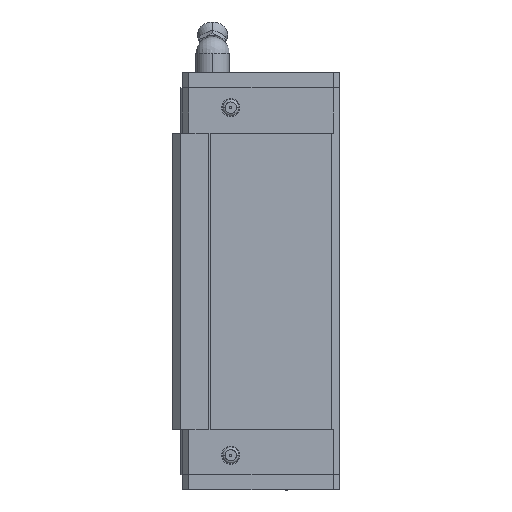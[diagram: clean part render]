
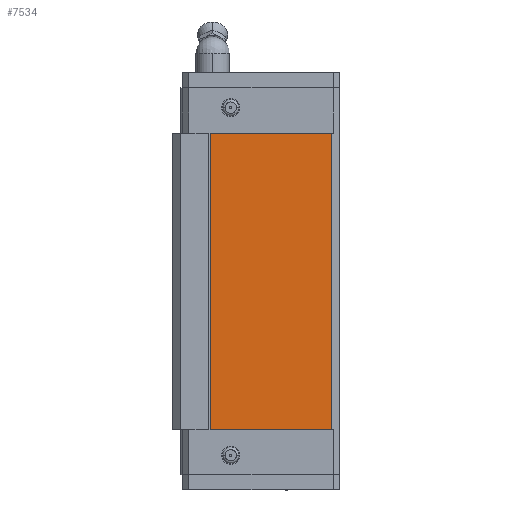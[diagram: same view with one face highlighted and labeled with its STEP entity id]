
A CAD part, left-side view. The second image highlights one B-rep face of the part: STEP entity #7534.
In plain terms, the highlighted planar face has unit normal (-1, 0, 0).
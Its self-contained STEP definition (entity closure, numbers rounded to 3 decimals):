
#111 = CARTESIAN_POINT ( 'NONE',  ( -29.537, 30.537, -35. ) ) ;
#172 = CARTESIAN_POINT ( 'NONE',  ( -29.537, 1.975, 35. ) ) ;
#236 = CARTESIAN_POINT ( 'NONE',  ( -29.537, 1.975, -35. ) ) ;
#3300 = AXIS2_PLACEMENT_3D ( 'NONE', #6674, #6683, #6684 ) ;
#3752 = VERTEX_POINT ( 'NONE', #5782 ) ;
#4095 = VERTEX_POINT ( 'NONE', #111 ) ;
#4156 = VERTEX_POINT ( 'NONE', #172 ) ;
#4220 = VERTEX_POINT ( 'NONE', #236 ) ;
#5097 = EDGE_LOOP ( 'NONE', ( #9894, #9893, #9892, #9891 ) ) ;
#5782 = CARTESIAN_POINT ( 'NONE',  ( -29.537, 30.537, 35. ) ) ;
#6674 = CARTESIAN_POINT ( 'NONE',  ( -29.537, 30.537, 35. ) ) ;
#6681 = PLANE ( 'NONE',  #3300 ) ;
#6683 = DIRECTION ( 'NONE',  ( 1., 0., 0. ) ) ;
#6684 = DIRECTION ( 'NONE',  ( 0., 1., 0. ) ) ;
#6970 = FACE_OUTER_BOUND ( 'NONE', #5097, .T. ) ;
#7534 = ADVANCED_FACE ( 'NONE', ( #6970 ), #6681, .F. ) ;
#8004 = CARTESIAN_POINT ( 'NONE',  ( -29.537, 1.975, 35. ) ) ;
#8016 = DIRECTION ( 'NONE',  ( 0., 0., -1. ) ) ;
#8020 = CARTESIAN_POINT ( 'NONE',  ( -29.537, 30.537, 35. ) ) ;
#8021 = DIRECTION ( 'NONE',  ( 0., 0., 1. ) ) ;
#8149 = CARTESIAN_POINT ( 'NONE',  ( -29.536, -13.281, 35. ) ) ;
#8153 = CARTESIAN_POINT ( 'NONE',  ( -29.536, -13.281, -35. ) ) ;
#8159 = DIRECTION ( 'NONE',  ( 0., 1., 0. ) ) ;
#8161 = DIRECTION ( 'NONE',  ( 0., 1., 0. ) ) ;
#9204 = EDGE_CURVE ( 'NONE', #4156, #4220, #11640, .T. ) ;
#9207 = EDGE_CURVE ( 'NONE', #4095, #3752, #11595, .T. ) ;
#9273 = EDGE_CURVE ( 'NONE', #4156, #3752, #10765, .T. ) ;
#9274 = EDGE_CURVE ( 'NONE', #4220, #4095, #10779, .T. ) ;
#9891 = ORIENTED_EDGE ( 'NONE', *, *, #9274, .F. ) ;
#9892 = ORIENTED_EDGE ( 'NONE', *, *, #9207, .F. ) ;
#9893 = ORIENTED_EDGE ( 'NONE', *, *, #9273, .T. ) ;
#9894 = ORIENTED_EDGE ( 'NONE', *, *, #9204, .F. ) ;
#10715 = VECTOR ( 'NONE', #8159, 1000. ) ;
#10733 = VECTOR ( 'NONE', #8161, 1000. ) ;
#10765 = LINE ( 'NONE', #8149, #10715 ) ;
#10779 = LINE ( 'NONE', #8153, #10733 ) ;
#11558 = VECTOR ( 'NONE', #8021, 1000. ) ;
#11581 = VECTOR ( 'NONE', #8016, 1000. ) ;
#11595 = LINE ( 'NONE', #8020, #11558 ) ;
#11640 = LINE ( 'NONE', #8004, #11581 ) ;
